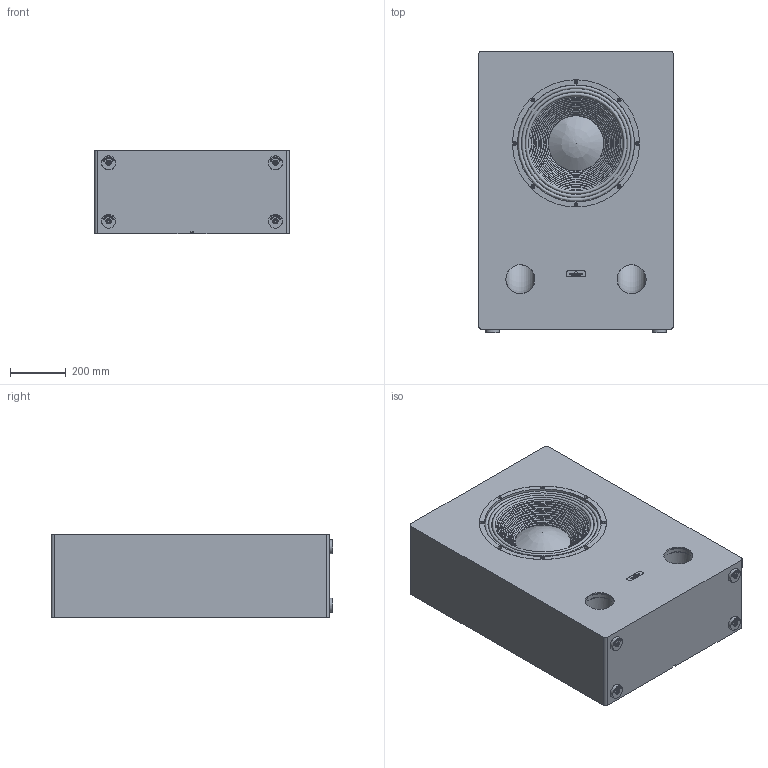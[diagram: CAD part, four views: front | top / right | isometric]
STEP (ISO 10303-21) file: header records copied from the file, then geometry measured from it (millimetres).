
FILE_DESCRIPTION(/* description */ ('','CAx-IF Rec.Pracs.---Representation and Presentation of Product Manufacturing Information (PMI)---4.0---2014-10-13'),/* implementation_level */ '2;1');
FILE_NAME(/* name */ '3D_THE18 SUB PASSIVE VENTED_Public_SI.step',/* time_stamp */ '2025-01-28T19:31:24+01:00',/* author */ (''),/* organization */ (''),/* preprocessor_version */ 'ST-DEVELOPER v20',/* originating_system */ 'Autodesk Translation Framework v13.20.0.188',/* authorisation */ '');
FILE_SCHEMA (('AP242_MANAGED_MODEL_BASED_3D_ENGINEERING_MIM_LF { 1 0 10303 442 1 1 4 }'));
Products named in the file (2): THE18 SUB PASSIVE VENTED; Cabinet
Assembly tree (1 placements, depth 2):
  THE18 SUB PASSIVE VENTED
    Cabinet
Bounding box: 700 x 1012 x 300.5 mm (x, y, z)
Volume: 198430689.6 mm3; surface area: 3037811.1 mm2
Topology: 1 solids, 19 shells, 2214 faces, 5841 edges, 3833 vertices
Faces by surface type: plane 971, bspline 826, cylinder 234, cone 128, torus 53, sphere 2
Full cylindrical faces by diameter (mm): 2.5 x4, 3.5 x4, 4 x8, 7.3 x4, 8 x64, 9.7 x4, 10 x8, 16 x4, 19 x4, 50 x4, 51 x4, 104.4 x4, 104.5 x2, 110 x2, 110.6 x2, 120 x2, 421 x1
Entity records: 133738 total; most frequent: CARTESIAN_POINT 82747, ORIENTED_EDGE 11676, DIRECTION 8582, EDGE_CURVE 5838, VERTEX_POINT 3833, LINE 3232, VECTOR 3232, AXIS2_PLACEMENT_3D 2675
